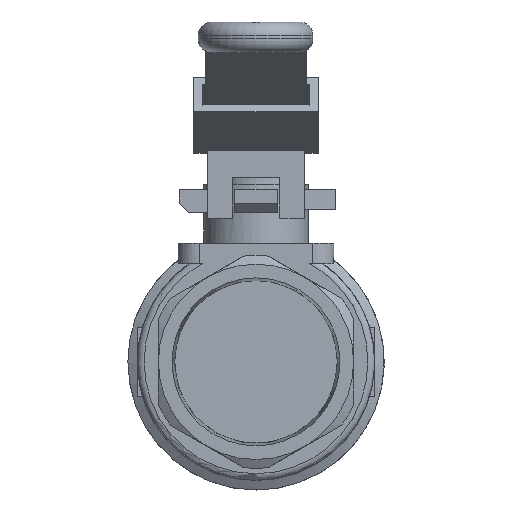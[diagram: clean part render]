
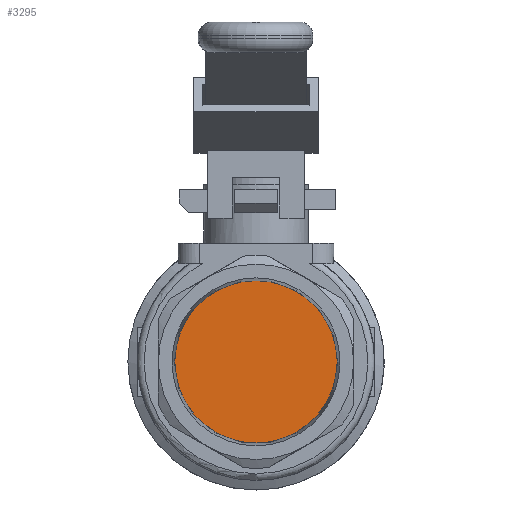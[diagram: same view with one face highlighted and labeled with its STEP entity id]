
A CAD part, left-side view. The second image highlights one B-rep face of the part: STEP entity #3295.
In plain terms, the highlighted planar face has unit normal (-1, 0, 0).
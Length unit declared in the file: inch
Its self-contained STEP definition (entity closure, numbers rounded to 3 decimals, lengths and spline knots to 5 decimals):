
#223=PLANE('',#3738);
#1037=FACE_OUTER_BOUND('',#1250,.T.);
#1250=EDGE_LOOP('',(#2736));
#1431=CIRCLE('',#3739,0.59866);
#1670=VERTEX_POINT('',#5698);
#2062=EDGE_CURVE('',#1670,#1670,#1431,.T.);
#2736=ORIENTED_EDGE('',*,*,#2062,.F.);
#3295=ADVANCED_FACE('',(#1037),#223,.T.);
#3738=AXIS2_PLACEMENT_3D('',#5697,#4428,#4429);
#3739=AXIS2_PLACEMENT_3D('',#5699,#4430,#4431);
#4428=DIRECTION('center_axis',(-1.,0.,0.));
#4429=DIRECTION('ref_axis',(0.,-1.,0.));
#4430=DIRECTION('center_axis',(1.,0.,0.));
#4431=DIRECTION('ref_axis',(0.,1.,0.));
#5697=CARTESIAN_POINT('Origin',(0.6609,0.29933,0.72));
#5698=CARTESIAN_POINT('',(0.6609,0.59867,0.72));
#5699=CARTESIAN_POINT('Origin',(0.6609,0.,0.72));
